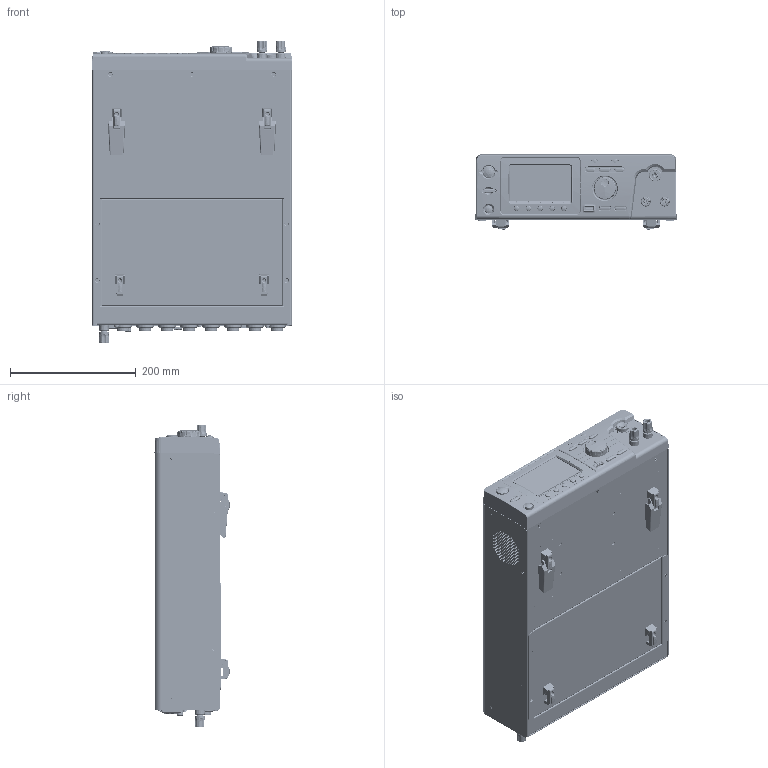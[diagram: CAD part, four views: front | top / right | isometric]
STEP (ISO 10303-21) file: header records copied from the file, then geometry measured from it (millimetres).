
FILE_DESCRIPTION((''),'2;1');
FILE_NAME('GPT-9500-ASM-A_ASM','2020-09-02T14:18:19',('mike_lee'),(''),'CREO PARAMETRIC BY PTC INC, 2019080','CREO PARAMETRIC BY PTC INC, 2019080','');
FILE_SCHEMA(('CONFIG_CONTROL_DESIGN'));
Products named in the file (96): 043WQ06-CPT; 62PT-950HP301; 57RG-20B05501; 57RG-20B05601; 51DM-90610401; HIPOT-LCD_ASM; HIPOT-F_PCB01; CTT-1137; USB-V; ENCODE_SW-R126EC-D1-25; LED-RIGHT; SS-01GL; 5005-350G0101; HIPOT-F_PCBA_ASM; 5052-240N0101; 5002-180R0101; GPT-9500_FRAME-A; INSERT-CU; 63FP-SG103301_ASM; 63LB-BF100701; 57RB-40G15301; 57RB-40G15401; 57RB-40G15501; 63TS-OG100201; NUT-M6; 44BJ-K0100701; NEW_HVOUT_PNP_ASM; NEW-45A-TERMINAL_ASM_SKEL0001; 63TS-XG100201; 63TS-XG100201-CU; 63TS-XG100201_ASM; 63TS-XG100301; 63TS-XG100401; 63TS-XG100401-CU; 63TS-XG100401_ASM; 63TS-AR100101; 61PF-052140N1-5-14-1T; 6001-CN0050J1; 61PF-052100N1-5-10-1T; SPRING-WASHER-T1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
Assembly tree (197 placements, depth 6):
  GPT-9500-ASM-A_ASM
    HIPOT_FRONT_ASM_ASM
      HIPOT-F_PCBA_ASM
        HIPOT-LCD_ASM
          043WQ06-CPT
          62PT-950HP301
          57RG-20B05501  x2
          57RG-20B05601  x2
          51DM-90610401
        HIPOT-F_PCB01
        CTT-1137  x10
        USB-V
        ENCODE_SW-R126EC-D1-25
        LED-RIGHT  x5
        SS-01GL  x2
        5005-350G0101
      5052-240N0101
      5002-180R0101
      HIPOT_FRONT_ASM-A_ASM
        63FP-SG103301_ASM
          GPT-9500_FRAME-A
          INSERT-CU  x15
        63LB-BF100701  x2
        57RB-40G15301
        57RB-40G15401
        57RB-40G15501
        NEW_HVOUT_PNP_ASM
          63TS-OG100201
          NUT-M6
          44BJ-K0100701
        NEW-45A-TERMINAL_ASM_ASM  x2
          NEW-45A-TERMINAL_ASM_SKEL0001
          63TS-XG100201_ASM
            63TS-XG100201
            63TS-XG100201-CU
          63TS-XG100301
          63TS-XG100401_ASM
            63TS-XG100401
            63TS-XG100401-CU
          63TS-AR100101
          61PF-052140N1-5-14-1T
          6001-CN0050J1
          61PF-052100N1-5-10-1T
          SPRING-WASHER-T1
        HIPOT_MODEL_NP-A
        HIPOT_TERMINAL_NP-A
      5004-130G010
    HIPOT-N_HPBOT-D_ASM
      62PT-950HP101_ASM
        HIPOT-N_HPD
        SO-M3-8  x8
        62PT-12KLO101-PIN  x4
        SO-M3-6  x4
        FH-M4-15
      62PT-950LO101_ASM
        HIPOT-N_HPB
    HIPOT-N_RP_ASM
      HIPOT-N_RP_SKEL0001
      62PT-950RP101_ASM
        62PT-950RPXXX
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Bounding box: 320 x 119.64 x 481.8 mm (x, y, z)
Volume: 972561.7 mm3; surface area: 1455997.2 mm2
Topology: 193 solids, 196 shells, 11196 faces, 28787 edges, 18399 vertices
Faces by surface type: plane 5308, cylinder 2895, cone 1410, bspline 965, extrusion 229, torus 203, sphere 177, revolution 9
Entity records: 288911 total; most frequent: CARTESIAN_POINT 124311, ORIENTED_EDGE 34820, DIRECTION 32043, EDGE_CURVE 17420, VERTEX_POINT 11187, AXIS2_PLACEMENT_3D 10860, VECTOR 10320, LINE 10209
